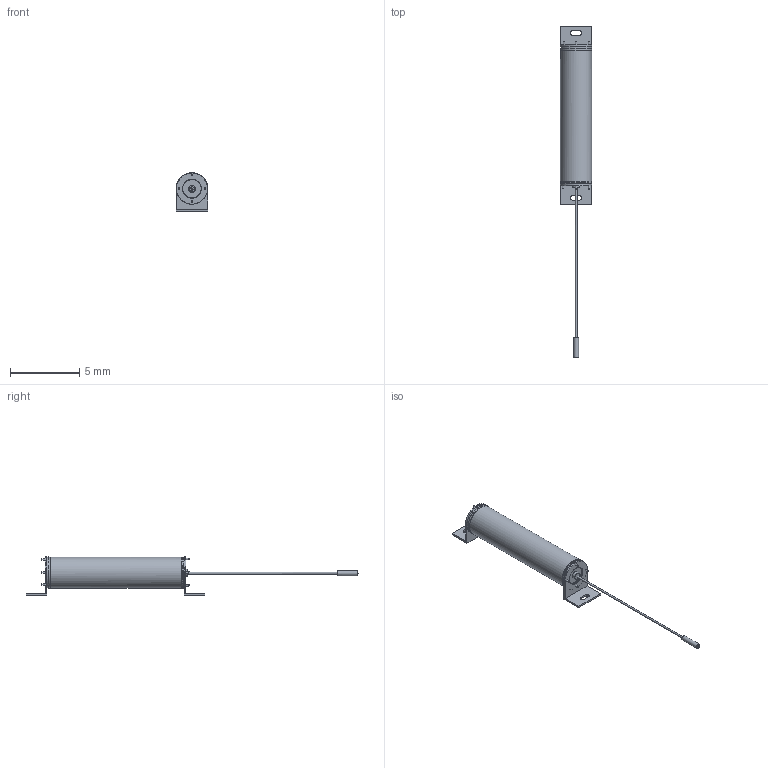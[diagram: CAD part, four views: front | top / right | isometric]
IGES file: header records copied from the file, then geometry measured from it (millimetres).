
Start section:  Autodesk DirectConnect version 7.0.27.0 ---- IGES version 5.3
Global section: file name: C:\ACADFILES\SS_PYLONS\CUSTOMER_FILES\SS-08-PYLON_3D_SMB_PT.iges; native system: Autodesk DirectConnect 7.0.27.0; preprocessor: 7.0.27.0; author: ENGINEERMAIN; organization: Unknown; date: 20150810.124101; units: millimetre
Bounding box: 2.26 x 24.01 x 2.75 mm (x, y, z)
Surface area: 350.7 mm2 (no closed solid volume)
Topology: 0 solids, 0 shells, 772 faces, 3944 edges, 3944 vertices
Faces by surface type: bspline 772
